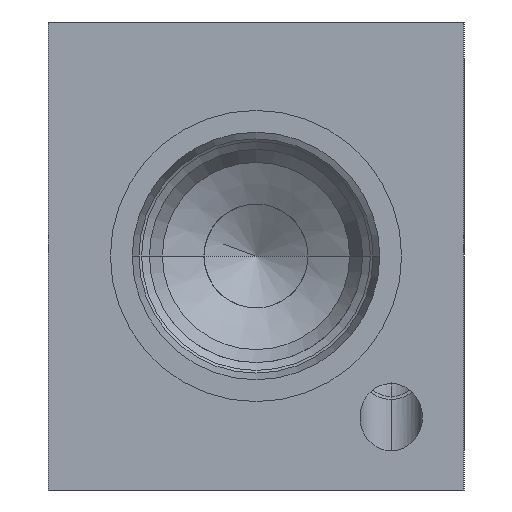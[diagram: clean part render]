
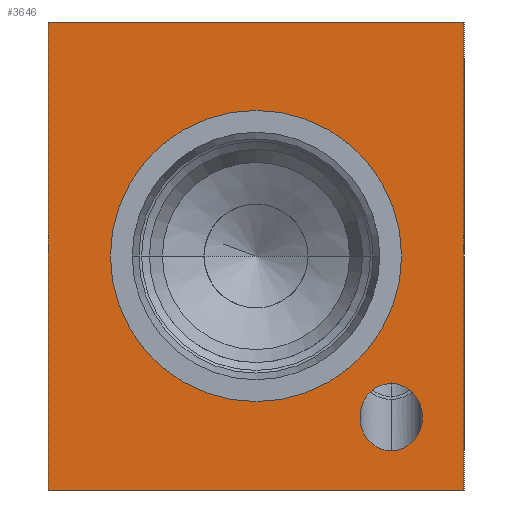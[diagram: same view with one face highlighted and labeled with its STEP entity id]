
A CAD part, left-side view. The second image highlights one B-rep face of the part: STEP entity #3646.
In plain terms, the highlighted planar face has unit normal (-1, 0, 0).
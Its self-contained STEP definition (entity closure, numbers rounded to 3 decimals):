
#24=DIRECTION('',(0.,-1.,0.));
#25=VECTOR('',#24,40.);
#26=CARTESIAN_POINT('',(-94.,40.,0.));
#27=LINE('',#26,#25);
#85=DIRECTION('',(0.,0.,1.));
#86=VECTOR('',#85,45.);
#87=CARTESIAN_POINT('',(-94.,40.,0.));
#88=LINE('',#87,#86);
#92=CARTESIAN_POINT('',(-94.,20.,22.5));
#93=DIRECTION('',(1.,0.,0.));
#94=DIRECTION('',(0.,-1.,0.));
#95=AXIS2_PLACEMENT_3D('',#92,#93,#94);
#100=CARTESIAN_POINT('',(-94.,20.,22.5));
#101=DIRECTION('',(1.,0.,0.));
#102=DIRECTION('',(0.,1.,0.));
#103=AXIS2_PLACEMENT_3D('',#100,#101,#102);
#108=CARTESIAN_POINT('',(-94.,7.,3.764));
#109=CARTESIAN_POINT('',(-94.,7.177,3.764));
#110=CARTESIAN_POINT('',(-94.,7.544,3.798));
#111=CARTESIAN_POINT('',(-94.,8.108,3.97));
#112=CARTESIAN_POINT('',(-94.,8.651,4.271));
#113=CARTESIAN_POINT('',(-94.,9.137,4.696));
#114=CARTESIAN_POINT('',(-94.,9.53,5.219));
#115=CARTESIAN_POINT('',(-94.,9.809,5.805));
#116=CARTESIAN_POINT('',(-94.,9.942,6.312));
#117=CARTESIAN_POINT('',(-94.,9.992,6.711));
#118=CARTESIAN_POINT('',(-94.,10.004,7.));
#119=CARTESIAN_POINT('',(-94.,9.992,7.289));
#120=CARTESIAN_POINT('',(-94.,9.942,7.688));
#121=CARTESIAN_POINT('',(-94.,9.809,8.195));
#122=CARTESIAN_POINT('',(-94.,9.53,8.781));
#123=CARTESIAN_POINT('',(-94.,9.137,9.304));
#124=CARTESIAN_POINT('',(-94.,8.651,9.729));
#125=CARTESIAN_POINT('',(-94.,8.108,10.03));
#126=CARTESIAN_POINT('',(-94.,7.544,10.202));
#127=CARTESIAN_POINT('',(-94.,7.177,10.236));
#128=CARTESIAN_POINT('',(-94.,7.,10.236));
#133=CARTESIAN_POINT('',(-94.,7.,10.236));
#134=CARTESIAN_POINT('',(-94.,6.823,10.236));
#135=CARTESIAN_POINT('',(-94.,6.456,10.202));
#136=CARTESIAN_POINT('',(-94.,5.892,10.03));
#137=CARTESIAN_POINT('',(-94.,5.349,9.729));
#138=CARTESIAN_POINT('',(-94.,4.863,9.304));
#139=CARTESIAN_POINT('',(-94.,4.47,8.781));
#140=CARTESIAN_POINT('',(-94.,4.191,8.195));
#141=CARTESIAN_POINT('',(-94.,4.058,7.688));
#142=CARTESIAN_POINT('',(-94.,4.008,7.289));
#143=CARTESIAN_POINT('',(-94.,3.996,7.));
#144=CARTESIAN_POINT('',(-94.,4.008,6.711));
#145=CARTESIAN_POINT('',(-94.,4.058,6.312));
#146=CARTESIAN_POINT('',(-94.,4.191,5.805));
#147=CARTESIAN_POINT('',(-94.,4.47,5.219));
#148=CARTESIAN_POINT('',(-94.,4.863,4.696));
#149=CARTESIAN_POINT('',(-94.,5.349,4.271));
#150=CARTESIAN_POINT('',(-94.,5.892,3.97));
#151=CARTESIAN_POINT('',(-94.,6.456,3.798));
#152=CARTESIAN_POINT('',(-94.,6.823,3.764));
#153=CARTESIAN_POINT('',(-94.,7.,3.764));
#382=DIRECTION('',(0.,0.,1.));
#383=VECTOR('',#382,45.);
#384=CARTESIAN_POINT('',(-94.,0.,0.));
#385=LINE('',#384,#383);
#533=DIRECTION('',(0.,-1.,0.));
#534=VECTOR('',#533,40.);
#535=CARTESIAN_POINT('',(-94.,40.,45.));
#536=LINE('',#535,#534);
#3236=CARTESIAN_POINT('',(-94.,40.,0.));
#3237=CARTESIAN_POINT('',(-94.,0.,0.));
#3238=VERTEX_POINT('',#3236);
#3239=VERTEX_POINT('',#3237);
#3244=CARTESIAN_POINT('',(-94.,40.,45.));
#3245=CARTESIAN_POINT('',(-94.,0.,45.));
#3246=VERTEX_POINT('',#3244);
#3247=VERTEX_POINT('',#3245);
#3458=CARTESIAN_POINT('',(-94.,6.,22.5));
#3459=VERTEX_POINT('',#3458);
#3460=CARTESIAN_POINT('',(-94.,34.,22.5));
#3461=VERTEX_POINT('',#3460);
#3549=CARTESIAN_POINT('',(-94.,7.,3.764));
#3550=VERTEX_POINT('',#3549);
#3551=CARTESIAN_POINT('',(-94.,7.,10.236));
#3552=VERTEX_POINT('',#3551);
#3620=CARTESIAN_POINT('',(-94.,40.,0.));
#3621=DIRECTION('',(-1.,0.,0.));
#3622=DIRECTION('',(0.,-1.,0.));
#3623=AXIS2_PLACEMENT_3D('',#3620,#3621,#3622);
#3624=PLANE('',#3623);
#3625=ORIENTED_EDGE('',*,*,#3585,.F.);
#3627=ORIENTED_EDGE('',*,*,#3626,.T.);
#3629=ORIENTED_EDGE('',*,*,#3628,.T.);
#3631=ORIENTED_EDGE('',*,*,#3630,.F.);
#3632=EDGE_LOOP('',(#3625,#3627,#3629,#3631));
#3633=FACE_OUTER_BOUND('',#3632,.F.);
#3635=ORIENTED_EDGE('',*,*,#3634,.F.);
#3637=ORIENTED_EDGE('',*,*,#3636,.F.);
#3638=EDGE_LOOP('',(#3635,#3637));
#3639=FACE_BOUND('',#3638,.F.);
#3641=ORIENTED_EDGE('',*,*,#3640,.F.);
#3643=ORIENTED_EDGE('',*,*,#3642,.F.);
#3644=EDGE_LOOP('',(#3641,#3643));
#3645=FACE_BOUND('',#3644,.F.);
#96=CIRCLE('',#95,14.);
#104=CIRCLE('',#103,14.);
#129=B_SPLINE_CURVE_WITH_KNOTS('',3,(#108,#109,#110,#111,#112,#113,#114,#115,
#116,#117,#118,#119,#120,#121,#122,#123,#124,#125,#126,#127,#128),.UNSPECIFIED.,
.F.,.F.,(4,1,1,1,1,1,1,1,1,1,1,1,1,1,1,1,1,1,4),(0.,0.063,0.125,0.188,
0.25,0.313,0.375,0.438,0.469,0.5,0.531,0.563,0.625,
0.688,0.75,0.813,0.875,0.938,1.),.UNSPECIFIED.);
#154=B_SPLINE_CURVE_WITH_KNOTS('',3,(#133,#134,#135,#136,#137,#138,#139,#140,
#141,#142,#143,#144,#145,#146,#147,#148,#149,#150,#151,#152,#153),.UNSPECIFIED.,
.F.,.F.,(4,1,1,1,1,1,1,1,1,1,1,1,1,1,1,1,1,1,4),(0.,0.063,0.125,0.188,
0.25,0.313,0.375,0.438,0.469,0.5,0.531,0.563,0.625,
0.688,0.75,0.813,0.875,0.938,1.),.UNSPECIFIED.);
#3585=EDGE_CURVE('',#3238,#3239,#27,.T.);
#3626=EDGE_CURVE('',#3238,#3246,#88,.T.);
#3628=EDGE_CURVE('',#3246,#3247,#536,.T.);
#3630=EDGE_CURVE('',#3239,#3247,#385,.T.);
#3634=EDGE_CURVE('',#3459,#3461,#96,.T.);
#3636=EDGE_CURVE('',#3461,#3459,#104,.T.);
#3640=EDGE_CURVE('',#3550,#3552,#129,.T.);
#3642=EDGE_CURVE('',#3552,#3550,#154,.T.);
#3646=ADVANCED_FACE('',(#3633,#3639,#3645),#3624,.T.);
